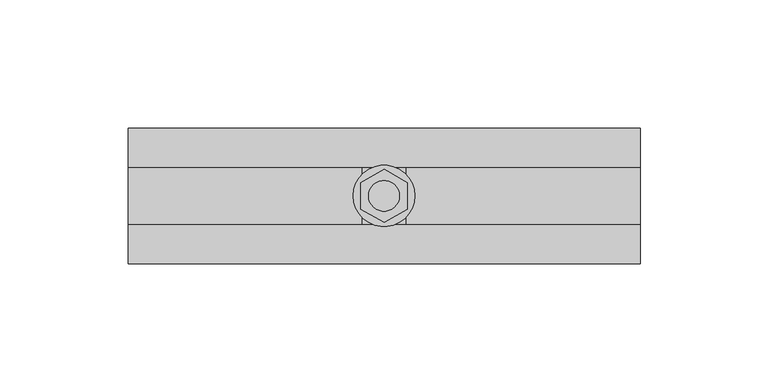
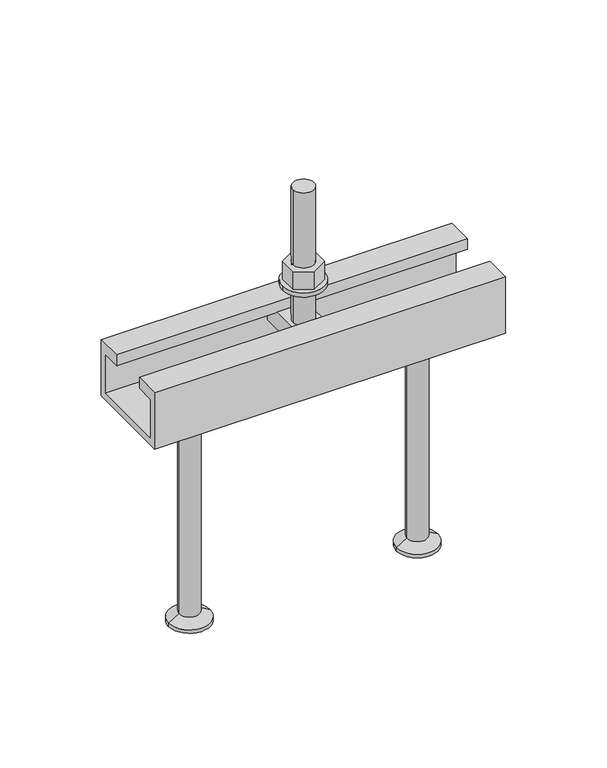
"""IFC4 building model written with IfcOpenShell, lengths in millimetres: fastener geometry, JTA-W JORDAHL® AnchorChannels : JTA-W L=200 mm."""

import ifcopenshell
import ifcopenshell.guid

model = None  # the IFC model being written
_history = None  # IfcOwnerHistory: only IFC2X3 demands one
_inside = {}  # id of a spatial element -> (the spatial element, [elements in it])
_under = {}  # id of a project, library or spatial element -> (it, [spatial elements below it])
_declared = {}  # id of a project -> (the project, [libraries it declares])
_typed = {}  # id of a type object -> (the type object, [elements of that type])
_made_of = {}  # id of a material, layer set ... -> (it, [elements and type objects made of it])


def new_model(schema):
    """Start an empty IFC model of exactly this schema.

    Asked for "IFC4X3", IfcOpenShell would pick the latest addendum, in which some entities
    have other attributes; the version numbers below select the first issue.
    IFC2X3 requires an IfcOwnerHistory on every rooted entity: one is made here for all.
    """
    global model, _history
    if schema == "IFC4X3":
        model = ifcopenshell.file(schema_version=(4, 3, 0, 0))
    else:
        model = ifcopenshell.file(schema=schema)
    _inside.clear()
    _under.clear()
    _declared.clear()
    _typed.clear()
    _made_of.clear()
    _history = None
    if model.schema == "IFC2X3":
        org = make("IfcOrganization", Name="unknown")
        user = make(
            "IfcPersonAndOrganization",
            ThePerson=make("IfcPerson", FamilyName="unknown"),
            TheOrganization=org,
        )
        app = make(
            "IfcApplication",
            ApplicationDeveloper=org,
            Version="unknown",
            ApplicationFullName="unknown",
            ApplicationIdentifier="unknown",
        )
        _history = make(
            "IfcOwnerHistory",
            OwningUser=user,
            OwningApplication=app,
            ChangeAction="ADDED",
            CreationDate=0,
        )
    return model


def make(cls, **values):
    """One entity of the class cls with the attributes given. An attribute that is None is left unset."""
    return model.create_entity(
        cls, **{name: value for name, value in values.items() if value is not None}
    )


def rooted(cls, **values):
    """An entity with a GlobalId (a new one), such as an element, a storey or a relation."""
    return make(cls, GlobalId=ifcopenshell.guid.new(), OwnerHistory=_history, **values)


def si_unit(unit_type, name, prefix=None):
    """IfcSIUnit, for example si_unit("LENGTHUNIT", "METRE", prefix="MILLI")."""
    return make("IfcSIUnit", UnitType=unit_type, Prefix=prefix, Name=name)


def assignment(units):
    """IfcUnitAssignment: the units of a project."""
    return None if units is None else make("IfcUnitAssignment", Units=units)


def point(xyz):
    """IfcCartesianPoint."""
    return None if xyz is None else make("IfcCartesianPoint", Coordinates=xyz)


def direction(xyz):
    """IfcDirection."""
    return None if xyz is None else make("IfcDirection", DirectionRatios=xyz)


def frame(location, z_axis=None, x_axis=None):
    """IfcAxis2Placement3D, a coordinate frame: its origin and axes. An axis left out is left unset."""
    return make(
        "IfcAxis2Placement3D",
        Location=point(location),
        Axis=direction(z_axis),
        RefDirection=direction(x_axis),
    )


def frame_2d(location, x_axis=None):
    """IfcAxis2Placement2D, a coordinate frame in the plane: its origin and x axis."""
    return make(
        "IfcAxis2Placement2D", Location=point(location), RefDirection=direction(x_axis)
    )


def origin():
    """The frame at (0, 0, 0) with its axes left unset."""
    return frame((0.0, 0.0, 0.0))


def place(relative_to, where):
    """IfcLocalPlacement: puts the frame where relative to a parent placement (None: the world)."""
    return make(
        "IfcLocalPlacement", PlacementRelTo=relative_to, RelativePlacement=where
    )


def context(
    kind, dimensions, precision=None, world=None, true_north=None, identifier=None
):
    """IfcGeometricRepresentationContext, for example the 3D "Model" context."""
    return make(
        "IfcGeometricRepresentationContext",
        ContextIdentifier=identifier,
        ContextType=kind,
        CoordinateSpaceDimension=dimensions,
        Precision=precision,
        WorldCoordinateSystem=world,
        TrueNorth=true_north,
    )


def project(units=None, contexts=None):
    """IfcProject with its units and contexts."""
    return rooted(
        "IfcProject",
        Name="project",
        RepresentationContexts=contexts,
        UnitsInContext=assignment(units),
    )


def spatial(cls, under=None, at=None, **own):
    """A site, building, storey or space (cls), placed at a placement, below another one or the project."""
    s = rooted(cls, ObjectPlacement=at, **own)
    if under is not None:
        _under.setdefault(under.id(), (under, []))[1].append(s)
    return s


def polyline(points):
    """IfcPolyline through the points."""
    return make("IfcPolyline", Points=[point(p) for p in points])


def circle_curve(where, radius):
    """IfcCircle in the frame where."""
    return make("IfcCircle", Position=where, Radius=radius)


def trimmed(basis, trim1, trim2, sense, master):
    """IfcTrimmedCurve: the piece of a basis curve between two trims."""
    return make(
        "IfcTrimmedCurve",
        BasisCurve=basis,
        Trim1=trim1,
        Trim2=trim2,
        SenseAgreement=sense,
        MasterRepresentation=master,
    )


def segment(curve, same_sense, transition):
    """IfcCompositeCurveSegment."""
    return make(
        "IfcCompositeCurveSegment",
        Transition=transition,
        SameSense=same_sense,
        ParentCurve=curve,
    )


def composite_curve(segments, self_intersect=None):
    """IfcCompositeCurve: segments joined end to end."""
    return make("IfcCompositeCurve", Segments=segments, SelfIntersect=self_intersect)


def outline(outer, holes=None, kind="AREA"):
    """IfcArbitraryClosedProfileDef: a profile drawn as a closed curve; with holes, ...WithVoids."""
    if holes is None:
        return make("IfcArbitraryClosedProfileDef", ProfileType=kind, OuterCurve=outer)
    return make(
        "IfcArbitraryProfileDefWithVoids",
        ProfileType=kind,
        OuterCurve=outer,
        InnerCurves=holes,
    )


def extrude(swept, where, along, depth):
    """IfcExtrudedAreaSolid: the profile swept, set in the frame where, extruded along a direction by depth."""
    return make(
        "IfcExtrudedAreaSolid",
        SweptArea=swept,
        Position=where,
        ExtrudedDirection=direction(along),
        Depth=depth,
    )


def shape(context_of_items, identifier, shape_type, items):
    """IfcShapeRepresentation: the items that make up one representation, for example the "Body"."""
    return make(
        "IfcShapeRepresentation",
        ContextOfItems=context_of_items,
        RepresentationIdentifier=identifier,
        RepresentationType=shape_type,
        Items=items,
    )


def source(mapping_origin, context_of_items, identifier, shape_type, items):
    """IfcRepresentationMap: a shape defined once, which mapped items show again and again."""
    return make(
        "IfcRepresentationMap",
        MappingOrigin=mapping_origin,
        MappedRepresentation=shape(context_of_items, identifier, shape_type, items),
    )


def transform(
    local_origin,
    x_axis=None,
    y_axis=None,
    z_axis=None,
    scale=None,
    scale2=None,
    scale3=None,
    uniform=True,
):
    """IfcCartesianTransformationOperator3D, or its non-uniform kind. x_axis, y_axis, z_axis: its Axis1, 2, 3."""
    if uniform:
        return make(
            "IfcCartesianTransformationOperator3D",
            Axis1=direction(x_axis),
            Axis2=direction(y_axis),
            LocalOrigin=point(local_origin),
            Scale=scale,
            Axis3=direction(z_axis),
        )
    return make(
        "IfcCartesianTransformationOperator3DnonUniform",
        Axis1=direction(x_axis),
        Axis2=direction(y_axis),
        LocalOrigin=point(local_origin),
        Scale=scale,
        Axis3=direction(z_axis),
        Scale2=scale2,
        Scale3=scale3,
    )


def mapped(mapping_source, mapping_target):
    """IfcMappedItem: shows the shape of a source again, moved by a transform."""
    return make(
        "IfcMappedItem", MappingSource=mapping_source, MappingTarget=mapping_target
    )


def made_of(thing, what):
    """Note that an element or type object is made of a material, layer set ...; save() writes the relation."""
    if what is not None:
        _made_of.setdefault(what.id(), (what, []))[1].append(thing)
    return thing


def element(
    cls,
    number,
    at=None,
    inside=None,
    cuts=None,
    type_object=None,
    material=None,
    context=None,
    identifier="Body",
    shape_type=None,
    held_by="IfcProductDefinitionShape",
    body=None,
    shapes=None,
    **own,
):
    """One element of the class cls, such as IfcWall. Its Tag is "e" and its number.

    at: its placement. inside: the storey or other place that contains it. cuts: it is an
    opening in that element (IfcRelVoidsElement). A single representation is given by context,
    identifier, shape_type and body (its items); several are given by shapes. held_by: the class
    of the entity that holds the representations. save() writes the other relations.
    """
    e = rooted(cls, Tag="e%d" % number, ObjectPlacement=at, **own)
    if body is not None:
        shapes = [shape(context, identifier, shape_type, body)]
    if shapes is not None:
        e.Representation = make(held_by, Representations=shapes)
    if inside is not None:
        _inside.setdefault(inside.id(), (inside, []))[1].append(e)
    if cuts is not None:
        rooted(
            "IfcRelVoidsElement", RelatingBuildingElement=cuts, RelatedOpeningElement=e
        )
    if type_object is not None:
        _typed.setdefault(type_object.id(), (type_object, []))[1].append(e)
    return made_of(e, material)


def aggregate(whole, parts):
    """IfcRelAggregates: a whole, such as a stair, and the parts it consists of."""
    return rooted("IfcRelAggregates", RelatingObject=whole, RelatedObjects=parts)


def save(model, path):
    """Write the relations noted so far, then the file.

    IfcRelAggregates (storeys below a building ...), IfcRelContainedInSpatialStructure (elements
    in a storey), IfcRelDefinesByType, IfcRelAssociatesMaterial and IfcRelDeclares: one each for
    every whole, place, type object, material and project.
    """
    for whole, parts in _under.values():
        aggregate(whole, parts)
    for where, things in _inside.values():
        rooted(
            "IfcRelContainedInSpatialStructure",
            RelatedElements=things,
            RelatingStructure=where,
        )
    for kind, things in _typed.values():
        rooted("IfcRelDefinesByType", RelatedObjects=things, RelatingType=kind)
    for what, things in _made_of.values():
        rooted("IfcRelAssociatesMaterial", RelatedObjects=things, RelatingMaterial=what)
    for by, libraries in _declared.values():
        rooted("IfcRelDeclares", RelatingContext=by, RelatedDefinitions=libraries)
    model.write(path)


def plane_surface(at):
    """IfcPlane: the flat surface through the origin of the frame at, square to its z axis."""
    return make("IfcPlane", Position=at)


def cylinder_surface(at, radius):
    """IfcCylindricalSurface: all points at the distance radius from the z axis of the frame at."""
    return make("IfcCylindricalSurface", Position=at, Radius=radius)


def revolved_surface(curve, axis_point, axis_direction):
    """IfcSurfaceOfRevolution: the curve turned about the line through axis_point along axis_direction."""
    return make(
        "IfcSurfaceOfRevolution",
        SweptCurve=make("IfcArbitraryOpenProfileDef", ProfileType="CURVE", Curve=curve),
        AxisPosition=make("IfcAxis1Placement", Location=point(axis_point), Axis=direction(axis_direction)),
    )


def advanced_brep(points, edges, surfaces, faces):
    """IfcAdvancedBrep: a solid bounded by faces that lie on surfaces and meet in shared edges.

    An edge is (start, end): straight between two places in points (the first is 0);
    or (start, end, curve); or (start, end, curve, False) where it runs against its curve.
    A face is (place in surfaces, loops), or (place, loops, False) where it looks against
    its surface's normal. A loop lists edges by number (the first is 1), with a minus sign
    where the edge is run from its end to its start. The first loop is the outer one.
    """
    corners = [point(p) for p in points]
    vertices = [make("IfcVertexPoint", VertexGeometry=c) for c in corners]
    made = []
    for start, end, *more in edges:
        made.append(
            make(
                "IfcEdgeCurve",
                EdgeStart=vertices[start],
                EdgeEnd=vertices[end],
                EdgeGeometry=more[0] if more else make("IfcPolyline", Points=[corners[start], corners[end]]),
                SameSense=more[1] if len(more) > 1 else True,
            )
        )
    hull = []
    for where, loops, *sense in faces:
        bounds = []
        for j, loop in enumerate(loops):
            ring = [make("IfcOrientedEdge", EdgeElement=made[abs(k) - 1], Orientation=k > 0) for k in loop]
            bounds.append(
                make(
                    "IfcFaceOuterBound" if j == 0 else "IfcFaceBound",
                    Bound=make("IfcEdgeLoop", EdgeList=ring),
                    Orientation=True,
                )
            )
        hull.append(make("IfcAdvancedFace", Bounds=bounds, FaceSurface=surfaces[where], SameSense=sense[0] if sense else True))
    return make("IfcAdvancedBrep", Outer=make("IfcClosedShell", CfsFaces=hull))


def fastener_db2bdcac(model_context):
    return source(origin(), model_context, "Body", "SolidModel", [
        extrude(outline(polyline([(100.0, -10.3923048), (91.0, -5.1961524), (91.0, 5.1961524), (100.0, 10.3923048), (109.0, 5.1961524), (109.0, -5.1961524), (100.0, -10.3923048)]), holes=[composite_curve([segment(trimmed(circle_curve(frame_2d((100.0, 0.0)), 6.0), [point((94.0, 0.0))], [point((106.0, 0.0))], True, "CARTESIAN"), True, "CONTINUOUS"), segment(trimmed(circle_curve(frame_2d((100.0, 0.0)), 6.0), [point((106.0, 0.0))], [point((94.0, 0.0))], True, "CARTESIAN"), True, "CONTINUOUS")], self_intersect=False)]), frame((0.0, 0.0, 17.5), z_axis=(0.0, 0.0, 1.0), x_axis=(1.0, 0.0, 0.0)), (0.0, 0.0, 1.0), 10.8),
        extrude(outline(composite_curve([segment(trimmed(circle_curve(frame_2d((100.0, 0.0)), 12.0), [point((88.0, 0.0))], [point((112.0, 0.0))], False, "CARTESIAN"), True, "CONTINUOUS"), segment(trimmed(circle_curve(frame_2d((100.0, 0.0)), 12.0), [point((112.0, 0.0))], [point((88.0, 0.0))], False, "CARTESIAN"), True, "CONTINUOUS")], self_intersect=False), holes=[composite_curve([segment(trimmed(circle_curve(frame_2d((100.0, 0.0)), 6.5), [point((93.5, 0.0))], [point((106.5, 0.0))], True, "CARTESIAN"), True, "CONTINUOUS"), segment(trimmed(circle_curve(frame_2d((100.0, 0.0)), 6.5), [point((106.5, 0.0))], [point((93.5, 0.0))], True, "CARTESIAN"), True, "CONTINUOUS")], self_intersect=False)]), frame((0.0, 0.0, 15.0), z_axis=(0.0, 0.0, 1.0), x_axis=(1.0, 0.0, 0.0)), (0.0, 0.0, 1.0), 2.5),
        advanced_brep(
        [(108.5, -20.7, -6.5), (108.5, -20.7, -16.5), (108.5, 20.7, -16.5), (108.5, 20.7, -6.5), (91.5, -20.7, -6.5), (91.5, 20.7, -6.5), (91.5, 20.7, -16.5), (91.5, -20.7, -16.5), (106.0, 0.0, -6.5), (94.0, 0.0, -6.5), (94.0, 0.0, 73.5), (106.0, 0.0, 73.5)],
        [
            (0, 1),
            (1, 2),
            (2, 3),
            (3, 0),
            (4, 5),
            (5, 6),
            (6, 7),
            (7, 4),
            (3, 5),
            (4, 0),
            (8, 9, circle_curve(frame((100.0, 0.0, -6.5), z_axis=(0.0, 0.0, -1.0), x_axis=(1.0, 0.0, 0.0)), 6.0)),
            (9, 8, circle_curve(frame((100.0, 0.0, -6.5), z_axis=(0.0, 0.0, -1.0), x_axis=(1.0, 0.0, 0.0)), 6.0)),
            (2, 6),
            (1, 7),
            (10, 11, circle_curve(frame((100.0, 0.0, 73.5), z_axis=(0.0, 0.0, 1.0), x_axis=(1.0, 0.0, 0.0)), 6.0)),
            (11, 10, circle_curve(frame((100.0, 0.0, 73.5), z_axis=(0.0, 0.0, 1.0), x_axis=(1.0, 0.0, 0.0)), 6.0)),
            (11, 8),
            (9, 10),
        ],
        [
            plane_surface(frame((108.5, 20.7, -6.5), z_axis=(1.0, 0.0, 0.0), x_axis=(0.0, 1.0, 0.0))),
            plane_surface(frame((91.5, 20.7, -6.5), z_axis=(-1.0, 0.0, 0.0), x_axis=(0.0, -1.0, 0.0))),
            plane_surface(frame((108.5, -20.7, -6.5), z_axis=(0.0, 0.0, 1.0), x_axis=(-1.0, 0.0, 0.0))),
            plane_surface(frame((108.5, 20.7, -6.5), z_axis=(0.0, 1.0, 0.0), x_axis=(-1.0, 0.0, 0.0))),
            plane_surface(frame((108.5, 20.7, -16.5), z_axis=(0.0, 0.0, -1.0), x_axis=(-1.0, 0.0, 0.0))),
            plane_surface(frame((108.5, -20.7, -16.5), z_axis=(0.0, -1.0, 0.0), x_axis=(-1.0, 0.0, 0.0))),
            plane_surface(frame((106.0, 0.0, 73.5), z_axis=(0.0, 0.0, 1.0), x_axis=(0.0, -1.0, 0.0))),
            cylinder_surface(frame((100.0, 0.0, -6.5), z_axis=(0.0, 0.0, 1.0), x_axis=(1.0, 0.0, 0.0)), 6.0),
        ],
        [
            (0, [[1, 2, 3, 4]]),
            (1, [[5, 6, 7, 8]]),
            (2, [[9, -5, 10, -4], [11, 12]]),
            (3, [[13, -6, -9, -3]]),
            (4, [[14, -7, -13, -2]]),
            (5, [[-10, -8, -14, -1]]),
            (6, [[15, 16]]),
            (7, [[17, -12, 18, -16]]),
            (7, [[-18, -11, -17, -15]]),
        ],
    ),
        advanced_brep(
        [(165.0, 0.0, -34.0), (147.5, 0.0, -34.0), (182.5, 0.0, -34.0), (153.2, 0.0, -165.0), (165.0, 0.0, -165.0), (176.8, 0.0, -165.0), (153.2, 0.0, -163.0), (176.8, 0.0, -163.0), (159.2, 0.0, -159.5358984), (170.8, 0.0, -159.5358984), (159.2, 0.0, -37.0), (170.8, 0.0, -37.0)],
        [
            (0, 1),
            (1, 2, circle_curve(frame((165.0, 0.0, -34.0), z_axis=(0.0, 0.0, 1.0), x_axis=(1.0, 0.0, 0.0)), 17.5)),
            (2, 0),
            (2, 1, circle_curve(frame((165.0, 0.0, -34.0), z_axis=(0.0, 0.0, 1.0), x_axis=(1.0, 0.0, 0.0)), 17.5)),
            (3, 4),
            (4, 5),
            (5, 3, circle_curve(frame((165.0, 0.0, -165.0), z_axis=(0.0, 0.0, -1.0), x_axis=(1.0, 0.0, 0.0)), 11.8)),
            (3, 5, circle_curve(frame((165.0, 0.0, -165.0), z_axis=(0.0, 0.0, -1.0), x_axis=(1.0, 0.0, 0.0)), 11.8)),
            (6, 3),
            (5, 7),
            (7, 6, circle_curve(frame((165.0, 0.0, -163.0), z_axis=(0.0, 0.0, -1.0), x_axis=(1.0, 0.0, 0.0)), 11.8)),
            (6, 7, circle_curve(frame((165.0, 0.0, -163.0), z_axis=(0.0, 0.0, -1.0), x_axis=(1.0, 0.0, 0.0)), 11.8)),
            (8, 6),
            (7, 9),
            (9, 8, circle_curve(frame((165.0, 0.0, -159.5358984), z_axis=(0.0, 0.0, -1.0), x_axis=(1.0, 0.0, 0.0)), 5.8)),
            (8, 9, circle_curve(frame((165.0, 0.0, -159.5358984), z_axis=(0.0, 0.0, -1.0), x_axis=(1.0, 0.0, 0.0)), 5.8)),
            (10, 8),
            (9, 11),
            (11, 10, circle_curve(frame((165.0, 0.0, -37.0), z_axis=(0.0, 0.0, -1.0), x_axis=(1.0, 0.0, 0.0)), 5.8)),
            (10, 11, circle_curve(frame((165.0, 0.0, -37.0), z_axis=(0.0, 0.0, -1.0), x_axis=(1.0, 0.0, 0.0)), 5.8)),
            (1, 10),
            (11, 2),
        ],
        [
            plane_surface(frame((165.0, 0.0, -34.0), z_axis=(0.0, 0.0, 1.0), x_axis=(1.0, 0.0, 0.0))),
            plane_surface(frame((165.0, 0.0, -165.0), z_axis=(0.0, 0.0, -1.0), x_axis=(1.0, 0.0, 0.0))),
            cylinder_surface(frame((165.0, 0.0, 2345.3150031), z_axis=(0.0, 0.0, 1.0), x_axis=(1.0, 0.0, 0.0)), 11.8),
            revolved_surface(polyline([(176.8, 0.0, -163.0), (170.8, 0.0, -159.5358984)]), (165.0, 0.0, 2345.3150031), (0.0, 0.0, 1.0)),
            cylinder_surface(frame((165.0, 0.0, 2345.3150031), z_axis=(0.0, 0.0, 1.0), x_axis=(1.0, 0.0, 0.0)), 5.8),
            revolved_surface(polyline([(170.8, 0.0, -37.0), (182.5, 0.0, -34.0)]), (165.0, 0.0, 2345.3150031), (0.0, 0.0, 1.0)),
        ],
        [
            (0, [[1, 2, 3]]),
            (0, [[-3, 4, -1]]),
            (1, [[5, 6, 7]]),
            (1, [[-6, -5, 8]]),
            (2, [[9, -7, 10, 11]]),
            (2, [[-10, -8, -9, 12]]),
            (3, [[13, -11, 14, 15]]),
            (3, [[-14, -12, -13, 16]]),
            (4, [[17, -15, 18, 19]]),
            (4, [[-18, -16, -17, 20]]),
            (5, [[21, -19, 22, -2]]),
            (5, [[-22, -20, -21, -4]]),
        ],
    ),
        advanced_brep(
        [(35.0, 0.0, -34.0), (17.5, 0.0, -34.0), (52.5, 0.0, -34.0), (23.2, 0.0, -165.0), (35.0, 0.0, -165.0), (46.8, 0.0, -165.0), (23.2, 0.0, -163.0), (46.8, 0.0, -163.0), (29.2, 0.0, -159.5358984), (40.8, 0.0, -159.5358984), (29.2, 0.0, -37.0), (40.8, 0.0, -37.0)],
        [
            (0, 1),
            (1, 2, circle_curve(frame((35.0, 0.0, -34.0), z_axis=(0.0, 0.0, 1.0), x_axis=(1.0, 0.0, 0.0)), 17.5)),
            (2, 0),
            (2, 1, circle_curve(frame((35.0, 0.0, -34.0), z_axis=(0.0, 0.0, 1.0), x_axis=(1.0, 0.0, 0.0)), 17.5)),
            (3, 4),
            (4, 5),
            (5, 3, circle_curve(frame((35.0, 0.0, -165.0), z_axis=(0.0, 0.0, -1.0), x_axis=(1.0, 0.0, 0.0)), 11.8)),
            (3, 5, circle_curve(frame((35.0, 0.0, -165.0), z_axis=(0.0, 0.0, -1.0), x_axis=(1.0, 0.0, 0.0)), 11.8)),
            (6, 3),
            (5, 7),
            (7, 6, circle_curve(frame((35.0, 0.0, -163.0), z_axis=(0.0, 0.0, -1.0), x_axis=(1.0, 0.0, 0.0)), 11.8)),
            (6, 7, circle_curve(frame((35.0, 0.0, -163.0), z_axis=(0.0, 0.0, -1.0), x_axis=(1.0, 0.0, 0.0)), 11.8)),
            (8, 6),
            (7, 9),
            (9, 8, circle_curve(frame((35.0, 0.0, -159.5358984), z_axis=(0.0, 0.0, -1.0), x_axis=(1.0, 0.0, 0.0)), 5.8)),
            (8, 9, circle_curve(frame((35.0, 0.0, -159.5358984), z_axis=(0.0, 0.0, -1.0), x_axis=(1.0, 0.0, 0.0)), 5.8)),
            (10, 8),
            (9, 11),
            (11, 10, circle_curve(frame((35.0, 0.0, -37.0), z_axis=(0.0, 0.0, -1.0), x_axis=(1.0, 0.0, 0.0)), 5.8)),
            (10, 11, circle_curve(frame((35.0, 0.0, -37.0), z_axis=(0.0, 0.0, -1.0), x_axis=(1.0, 0.0, 0.0)), 5.8)),
            (1, 10),
            (11, 2),
        ],
        [
            plane_surface(frame((35.0, 0.0, -34.0), z_axis=(0.0, 0.0, 1.0), x_axis=(1.0, 0.0, 0.0))),
            plane_surface(frame((35.0, 0.0, -165.0), z_axis=(0.0, 0.0, -1.0), x_axis=(1.0, 0.0, 0.0))),
            cylinder_surface(frame((35.0, 0.0, 2345.3150031), z_axis=(0.0, 0.0, 1.0), x_axis=(1.0, 0.0, 0.0)), 11.8),
            revolved_surface(polyline([(46.8, 0.0, -163.0), (40.8, 0.0, -159.5358984)]), (35.0, 0.0, 2345.3150031), (0.0, 0.0, 1.0)),
            cylinder_surface(frame((35.0, 0.0, 2345.3150031), z_axis=(0.0, 0.0, 1.0), x_axis=(1.0, 0.0, 0.0)), 5.8),
            revolved_surface(polyline([(40.8, 0.0, -37.0), (52.5, 0.0, -34.0)]), (35.0, 0.0, 2345.3150031), (0.0, 0.0, 1.0)),
        ],
        [
            (0, [[1, 2, 3]]),
            (0, [[-3, 4, -1]]),
            (1, [[5, 6, 7]]),
            (1, [[-6, -5, 8]]),
            (2, [[9, -7, 10, 11]]),
            (2, [[-10, -8, -9, 12]]),
            (3, [[13, -11, 14, 15]]),
            (3, [[-14, -12, -13, 16]]),
            (4, [[17, -15, 18, 19]]),
            (4, [[-18, -16, -17, 20]]),
            (5, [[21, -19, 22, -2]]),
            (5, [[-22, -20, -21, -4]]),
        ],
    ),
        extrude(outline(polyline([(-26.5, 0.0), (-11.25, 0.0), (-11.25, -6.5), (-22.5, -6.5), (-22.5, -30.0), (22.5, -30.0), (22.5, -6.5), (11.25, -6.5), (11.25, 0.0), (26.5, 0.0), (26.5, -34.0), (-26.5, -34.0), (-26.5, 0.0)])), frame((0.0, 0.0, 0.0), z_axis=(1.0, 0.0, 0.0), x_axis=(0.0, 1.0, 0.0)), (0.0, 0.0, 1.0), 200.0),
    ])


if __name__ == "__main__":
    model = new_model("IFC4")
    model_context = context("Model", 3, world=origin())
    ifc_project = project(units=[si_unit("LENGTHUNIT", "METRE", prefix="MILLI")], contexts=[model_context])
    site = spatial("IfcSite", under=ifc_project)
    building = spatial("IfcBuilding", under=site)
    placement = place(None, origin())
    fastener_shape = fastener_db2bdcac(model_context)
    element("IfcFastener", 1, ObjectType="JTA-W JORDAHL® AnchorChannels : JTA-W L=200 mm", at=placement, inside=building, context=model_context, shape_type="MappedRepresentation", body=[
        mapped(fastener_shape, transform((0.0, 0.0, 0.0), x_axis=(1.0, 0.0, 0.0), y_axis=(0.0, 1.0, 0.0), z_axis=(0.0, 0.0, 1.0))),
    ])
    save(model, "model.ifc")
